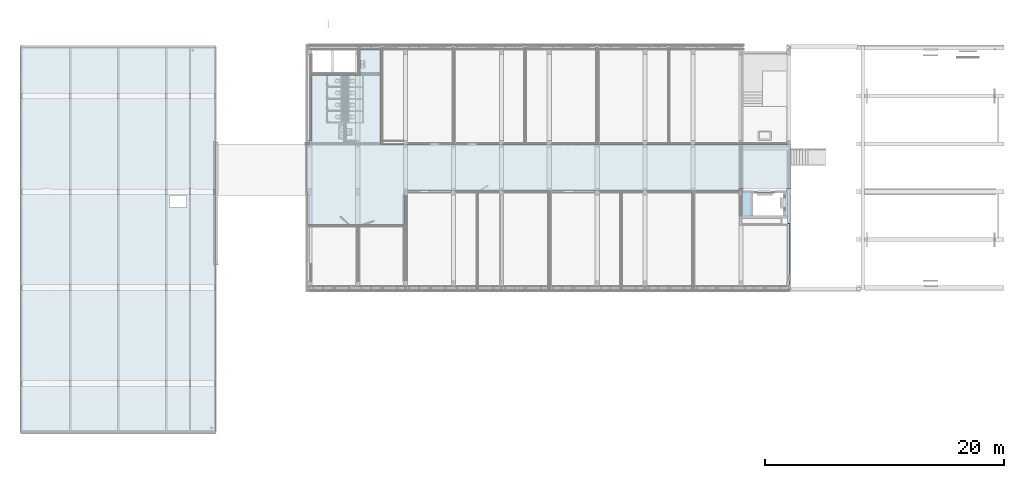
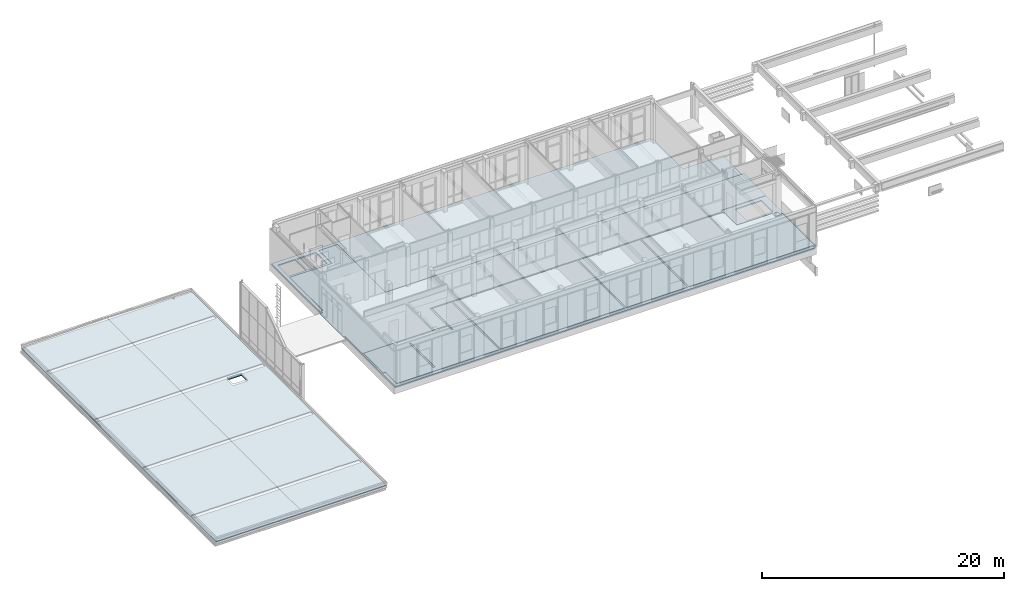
# One storey, part 13 of 54: 4 slabs, 7 openings.
"""IFC2X3 building model written with IfcOpenShell, lengths in millimetres."""

from ifc_helpers import new_model, entity, si_unit, converted_unit, derived_unit, money_unit, direction, frame, origin_with_axes, place, context, subcontext, project, spatial, faceted_brep, material, type_object, element, save


model = new_model("IFC2X3")

# Units and contexts
model_context = context("Model", 3, precision=0.01, world=origin_with_axes(), true_north=direction((0.0, 1.0)))
body_context = subcontext(model_context, "Body", "Model", "MODEL_VIEW")
ifc_project = project(units=[si_unit("LENGTHUNIT", "METRE", prefix="MILLI"), si_unit("AREAUNIT", "SQUARE_METRE"), si_unit("VOLUMEUNIT", "CUBIC_METRE"), converted_unit("PLANEANGLEUNIT", "DEGREE", entity("IfcPlaneAngleMeasure", 0.0174532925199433), si_unit("PLANEANGLEUNIT", "RADIAN"), dimensions=[0, 0, 0, 0, 0, 0, 0]), money_unit("EUR"), converted_unit("TIMEUNIT", "Year", entity("IfcTimeMeasure", 31557600.0), si_unit("TIMEUNIT", "SECOND"), dimensions=[0, 0, 1, 0, 0, 0, 0]), si_unit("MASSUNIT", "GRAM", prefix="KILO"), si_unit("THERMODYNAMICTEMPERATUREUNIT", "DEGREE_CELSIUS"), si_unit("LUMINOUSINTENSITYUNIT", "LUMEN"), si_unit("ENERGYUNIT", "JOULE", prefix="MEGA"), derived_unit("THERMALCONDUCTANCEUNIT", [(si_unit("POWERUNIT", "WATT"), 1), (si_unit("LENGTHUNIT", "METRE"), -1), (si_unit("THERMODYNAMICTEMPERATUREUNIT", "KELVIN"), -1)]), derived_unit("SPECIFICHEATCAPACITYUNIT", [(si_unit("ENERGYUNIT", "JOULE"), 1), (si_unit("MASSUNIT", "GRAM", prefix="KILO"), -1), (si_unit("THERMODYNAMICTEMPERATUREUNIT", "KELVIN"), -1)]), derived_unit("MASSDENSITYUNIT", [(si_unit("MASSUNIT", "GRAM", prefix="KILO"), 1), (si_unit("VOLUMEUNIT", "CUBIC_METRE"), -1)])], contexts=[model_context])

# Site, building, storey
site_placement = place(None, origin_with_axes())
site = spatial("IfcSite", under=ifc_project, at=site_placement, Name="<site naam>", CompositionType="ELEMENT")
building_placement = place(site_placement, origin_with_axes())
building = spatial("IfcBuilding", under=site, at=building_placement, Name="<Naam gebouw>", CompositionType="ELEMENT")
storey_placement = place(building_placement, frame((0.0, 0.0, 8500.0), z_axis=(0.0, 0.0, 1.0), x_axis=(1.0, 0.0, 0.0)))
storey = spatial("IfcBuildingStorey", under=building, at=storey_placement, Name="02 2e verdieping", CompositionType="ELEMENT", Elevation=8500.0)

# Slab, openings
ifc_material_1 = material(Name="beton_gewapend_vloer C")
slab_type_1 = type_object("IfcSlabType", Name="beton_gewapend_vloer C  120", PredefinedType="NOTDEFINED")
slab_1_placement = place(storey_placement, frame((11824.99999999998, -264.9999999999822, -30.00000000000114), z_axis=(0.0, 0.0, 1.0), x_axis=(1.0, 0.0, 0.0)))
slab_1 = element("IfcSlab", 1, at=slab_1_placement, inside=storey, type_object=slab_type_1, material=ifc_material_1, Name="23_Vloer_beton_gewapend_vloer", PredefinedType="NOTDEFINED", context=body_context, shape_type="Brep", body=[
    faceted_brep([(0.0, 0.0, 0.0), (0.0, 0.0, -119.9999999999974), (40080.00000000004, 0.0, -119.9999999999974), (40080.00000000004, 0.0, 0.0), (0.0, 20530.0, 0.0), (0.0, 20530.0, -119.9999999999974), (36175.00000000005, 20529.99999999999, -119.9999999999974), (36175.00000000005, 20330.0, -119.9999999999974), (36350.07785426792, 20330.0, -119.9999999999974), (36350.07785426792, 15356.57273018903, -119.9999999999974), (40160.00000000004, 15356.57273018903, -119.9999999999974), (40160.00000000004, 11990.0, -119.9999999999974), (40350.00000000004, 11990.0, -119.9999999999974), (40350.0, 291.8380129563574, -119.9999999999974), (40080.00000000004, 291.8380129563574, -119.9999999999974), (40080.00000000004, 291.8380129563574, 0.0), (40350.0, 291.8380129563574, 0.0), (40350.00000000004, 11990.0, 0.0), (40160.00000000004, 11990.0, 0.0), (40160.00000000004, 15356.57273018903, 0.0), (36350.07785426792, 15356.57273018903, 0.0), (36350.07785426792, 20330.0, 0.0), (36175.00000000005, 20330.0, 0.0), (36175.00000000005, 20529.99999999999, 0.0)], [[[0, 1, 2, 3]], [[4, 5, 1, 0]], [[2, 1, 5, 6, 7, 8, 9, 10, 11, 12, 13, 14]], [[3, 2, 14, 15]], [[4, 0, 3, 15, 16, 17, 18, 19, 20, 21, 22, 23]], [[23, 6, 5, 4]], [[22, 7, 6, 23]], [[21, 8, 7, 22]], [[20, 9, 8, 21]], [[19, 10, 9, 20]], [[18, 11, 10, 19]], [[17, 12, 11, 18]], [[16, 13, 12, 17]], [[15, 14, 13, 16]]]),
])
opening_1_placement = place(slab_1_placement, frame((-11824.99999999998, 264.9999999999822, -8469.999999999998), z_axis=(0.0, 0.0, 1.0), x_axis=(1.0, 0.0, 0.0)))
element("IfcOpeningElement", 2, at=opening_1_placement, cuts=slab_1, Name="23_Opening_", context=body_context, shape_type="Brep", body=[
    faceted_brep([(49000.00000000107, 6004.99999853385, 8590.0), (49000.00000000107, 7904.99999853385, 8590.0), (49000.00000000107, 7904.99999853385, 8230.0), (49000.00000000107, 6004.99999853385, 8230.0), (51500.00000000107, 6004.99999853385, 8590.0), (51500.00000000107, 7904.99999853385, 8590.0), (51500.00000000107, 7904.99999853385, 8230.0), (51500.00000000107, 6004.99999853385, 8230.0)], [[[0, 1, 2, 3]], [[0, 4, 5, 1]], [[1, 5, 6, 2]], [[3, 2, 6, 7]], [[4, 0, 3, 7]], [[5, 4, 7, 6]]]),
])
opening_2_placement = place(slab_1_placement, frame((-11824.99999999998, 264.9999999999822, -8469.999999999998), z_axis=(0.0, 0.0, 1.0), x_axis=(1.0, 0.0, 0.0)))
element("IfcOpeningElement", 3, at=opening_2_placement, cuts=slab_1, Name="23_Opening_", context=body_context, shape_type="Brep", body=[
    faceted_brep([(13965.00000000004, 18009.99999999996, 8590.0), (13965.00000000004, 19810.0000080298, 8590.0), (13965.00000000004, 19810.0000080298, 8230.0), (13965.00000000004, 18009.99999999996, 8230.0), (15825.00000000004, 18009.99999999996, 8590.0), (15825.00000000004, 19810.0000080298, 8590.0), (15825.00000000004, 19810.0000080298, 8230.0), (15825.00000000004, 18009.99999999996, 8230.0)], [[[0, 1, 2, 3]], [[0, 4, 5, 1]], [[1, 5, 6, 2]], [[3, 2, 6, 7]], [[4, 0, 3, 7]], [[5, 4, 7, 6]]]),
])
opening_3_placement = place(slab_1_placement, frame((-11824.99999999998, 264.9999999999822, -8469.999999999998), z_axis=(0.0, 0.0, 1.0), x_axis=(1.0, 0.0, 0.0)))
element("IfcOpeningElement", 4, at=opening_3_placement, cuts=slab_1, Name="23_Opening_", context=body_context, shape_type="Brep", body=[
    faceted_brep([(12175.00000000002, 18009.99999999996, 8590.0), (12175.00000000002, 19809.99999999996, 8590.0), (12175.00000000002, 19809.99999999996, 8230.0), (12175.00000000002, 18009.99999999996, 8230.0), (13824.99999999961, 18009.99999999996, 8590.0), (13824.99999999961, 19809.99999999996, 8590.0), (13824.99999999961, 19809.99999999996, 8230.0), (13824.99999999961, 18009.99999999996, 8230.0)], [[[0, 1, 2, 3]], [[0, 4, 5, 1]], [[1, 5, 6, 2]], [[3, 2, 6, 7]], [[4, 0, 3, 7]], [[5, 4, 7, 6]]]),
])
opening_4_placement = place(slab_1_placement, frame((-11824.99999999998, 264.9999999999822, -8469.999999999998), z_axis=(0.0, 0.0, 1.0), x_axis=(1.0, 0.0, 0.0)))
element("IfcOpeningElement", 5, at=opening_4_placement, cuts=slab_1, Name="23_Opening_", context=body_context, shape_type="Brep", body=[
    faceted_brep([(51465.00000000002, 5340.999998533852, 8590.0), (51465.00000000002, 5790.99999853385, 8590.0), (51465.00000000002, 5790.99999853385, 8230.0), (51465.00000000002, 5340.999998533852, 8230.0), (51865.00000000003, 5340.999998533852, 8590.0), (51865.00000000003, 5790.99999853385, 8590.0), (51865.00000000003, 5790.99999853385, 8230.0), (51865.00000000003, 5340.999998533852, 8230.0)], [[[0, 1, 2, 3]], [[0, 4, 5, 1]], [[1, 5, 6, 2]], [[3, 2, 6, 7]], [[4, 0, 3, 7]], [[5, 4, 7, 6]]]),
])

ifc_material_2 = material(Name="isolatie_xps_zwevende_dekvloer")
slab_type_2 = type_object("IfcSlabType", Name="isolatie_xps_zwevende_dekvloer 30", PredefinedType="NOTDEFINED")
slab_2_placement = place(storey_placement, frame((11935.00003775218, 1954.999977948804, 0.0), z_axis=(0.0, 0.0, 1.0), x_axis=(1.0, 0.0, 0.0)))
slab_2 = element("IfcSlab", 6, at=slab_2_placement, inside=storey, type_object=slab_type_2, material=ifc_material_2, Name="23_Vloer_isolatie_xps_zwevende_dekvloer", PredefinedType="NOTDEFINED", context=body_context, shape_type="Brep", body=[
    faceted_brep([(8139.999962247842, 2564.601260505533, 0.0), (8139.999962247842, 2564.601260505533, -29.99999999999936), (7989.999962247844, 2564.601260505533, -29.99999999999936), (7989.999962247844, 2564.601260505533, 0.0), (8139.999962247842, 3270.000022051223, 0.0), (8139.999962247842, 3270.000022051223, -29.99999999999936), (7989.999962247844, 3270.000022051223, -29.99999999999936), (8139.999962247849, 6016.00002205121, -29.99999999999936), (9990.011503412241, 6016.00002205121, -29.99999999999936), (9990.00019722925, -1879.999977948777, -29.99999999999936), (215.0000000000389, -1879.999977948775, -29.99999999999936), (215.0000000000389, 0.0, -29.99999999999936), (0.0, 0.0, -29.99999999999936), (0.0, 3270.000022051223, -29.99999999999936), (3989.999962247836, 2569.999989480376, -29.99999999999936), (3989.999962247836, -1404.9999779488, -29.99999999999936), (4139.999962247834, -1404.9999779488, -29.99999999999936), (4139.999962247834, 2569.999989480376, -29.99999999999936), (7989.999962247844, 3270.000022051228, 0.0), (0.0, 3270.000022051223, 0.0), (0.0, 0.0, 0.0), (215.0000000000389, 0.0, 0.0), (215.0000000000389, -1879.999977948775, 0.0), (9990.000197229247, -1879.99997794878, 0.0), (9990.011503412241, 6016.000022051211, 0.0), (8139.999962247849, 6016.00002205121, 0.0), (4139.999962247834, -1404.9999779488, 0.0), (3989.999962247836, -1404.9999779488, 0.0), (3989.999962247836, 2569.999989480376, 0.0), (4139.999962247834, 2569.999989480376, 0.0)], [[[0, 1, 2, 3]], [[1, 0, 4, 5]], [[6, 2, 1, 5, 7, 8, 9, 10, 11, 12, 13], [14, 15, 16, 17]], [[2, 6, 18, 3]], [[0, 3, 18, 19, 20, 21, 22, 23, 24, 25, 4], [26, 27, 28, 29]], [[7, 5, 4, 25]], [[25, 24, 8, 7]], [[9, 8, 24, 23]], [[10, 9, 23, 22]], [[22, 21, 11, 10]], [[21, 20, 12, 11]], [[20, 19, 13, 12]], [[19, 18, 6, 13]], [[14, 28, 27, 15]], [[16, 15, 27, 26]], [[16, 26, 29, 17]], [[17, 29, 28, 14]]]),
    faceted_brep([(39347.49996224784, 3836.000020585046, 0.0), (39347.49996224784, 3836.000020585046, -29.99999999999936), (35989.99996224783, 3836.000020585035, -29.99999999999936), (35989.99996224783, 3836.000020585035, 0.0), (39347.49996224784, 3273.500020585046, 0.0), (39347.49996224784, 3273.500020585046, -29.99999999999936), (35989.99996224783, 4050.000020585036, -29.99999999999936), (39359.99996224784, 3273.500020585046, -29.99999999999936), (39929.99996224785, 3273.500020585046, -29.99999999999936), (39929.99996224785, 3386.000020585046, -29.99999999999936), (39459.99996224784, 3386.000020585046, -29.99999999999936), (39459.99996224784, 3404.000022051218, -29.99999999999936), (40129.99996224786, 3404.000022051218, -29.99999999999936), (40129.99996224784, -1928.161964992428, -29.99999999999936), (39969.99996224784, -1928.161964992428, -29.99999999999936), (39969.99996224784, -1879.999977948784, -29.99999999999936), (28139.99996224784, -1879.999977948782, -29.99999999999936), (28139.99996224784, 6016.00002205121, -29.99999999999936), (35989.99996224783, 6016.00002205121, -29.99999999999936), (35989.99996224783, 4050.000020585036, 0.0), (35989.99996224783, 6016.00002205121, 0.0), (28139.99996224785, 6016.000022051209, 0.0), (28139.99996224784, -1879.999977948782, 0.0), (39969.99996224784, -1879.999977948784, 0.0), (39969.99996224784, -1928.161964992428, 0.0), (40129.99996224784, -1928.161964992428, 0.0), (40129.99996224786, 3404.000022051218, 0.0), (39459.99996224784, 3404.000022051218, 0.0), (39459.99996224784, 3386.000020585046, 0.0), (39929.99996224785, 3386.000020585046, 0.0), (39929.99996224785, 3273.500020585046, 0.0), (39359.99996224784, 3273.500020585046, 0.0)], [[[0, 1, 2, 3]], [[0, 4, 5, 1]], [[6, 2, 1, 5, 7, 8, 9, 10, 11, 12, 13, 14, 15, 16, 17, 18]], [[2, 6, 19, 3]], [[0, 3, 19, 20, 21, 22, 23, 24, 25, 26, 27, 28, 29, 30, 31, 4]], [[4, 31, 7, 5]], [[7, 31, 30, 8]], [[30, 29, 9, 8]], [[9, 29, 28, 10]], [[11, 10, 28, 27]], [[12, 11, 27, 26]], [[26, 25, 13, 12]], [[25, 24, 14, 13]], [[24, 23, 15, 14]], [[23, 22, 16, 15]], [[16, 22, 21, 17]], [[21, 20, 18, 17]], [[20, 19, 6, 18]]]),
    faceted_brep([(10140.0001972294, -1879.999977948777, 0.0), (21990.00010395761, -1879.999977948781, 0.0), (21990.00010395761, 6016.000022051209, 0.0), (10140.0115034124, 6016.000022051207, 0.0), (10140.0001972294, -1879.999977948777, -29.99999999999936), (21990.00010395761, -1879.99997794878, -29.99999999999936), (21990.00010395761, 6016.00002205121, -29.99999999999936), (10140.0115034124, 6016.00002205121, -29.99999999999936)], [[[0, 1, 2, 3]], [[4, 5, 1, 0]], [[5, 6, 2, 1]], [[3, 2, 6, 7]], [[4, 0, 3, 7]], [[7, 6, 5, 4]]]),
    faceted_brep([(27989.99996224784, 6016.00002205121, -29.99999999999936), (22140.00010395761, 6016.00002205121, -29.99999999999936), (22140.00010395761, 6016.000022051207, 0.0), (27989.99996224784, 6016.00002205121, 0.0), (27989.99996224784, -1879.999977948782, -29.99999999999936), (22140.00010395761, -1879.99997794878, -29.99999999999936), (22140.00010395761, -1879.99997794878, 0.0), (27989.99996224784, -1879.999977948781, 0.0)], [[[0, 1, 2, 3]], [[4, 5, 1, 0]], [[5, 6, 2, 1]], [[3, 2, 6, 7]], [[4, 0, 3, 7]], [[7, 6, 5, 4]]]),
])
opening_5_placement = place(slab_2_placement, frame((-11935.00003775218, -1954.999977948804, -8500.0), z_axis=(0.0, 0.0, 1.0), x_axis=(1.0, 0.0, 0.0)))
element("IfcOpeningElement", 7, at=opening_5_placement, cuts=slab_2, Name="23_Opening_", context=body_context, shape_type="Brep", body=[
    faceted_brep([(12175.00000000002, 17899.99999999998, 8529.999999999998), (12175.00000000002, 19399.99999999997, 8529.999999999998), (12175.00000000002, 19399.99999999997, 8440.000000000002), (12175.00000000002, 17899.99999999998, 8440.000000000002), (13075.00000000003, 17899.99999999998, 8529.999999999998), (13075.00000000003, 19399.99999999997, 8529.999999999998), (13075.00000000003, 19399.99999999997, 8440.000000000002), (13075.00000000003, 17899.99999999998, 8440.000000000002)], [[[0, 1, 2, 3]], [[0, 4, 5, 1]], [[1, 5, 6, 2]], [[3, 2, 6, 7]], [[4, 0, 3, 7]], [[5, 4, 7, 6]]]),
])
opening_6_placement = place(slab_2_placement, frame((-11935.00003775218, -1954.999977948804, -8500.0), z_axis=(0.0, 0.0, 1.0), x_axis=(1.0, 0.0, 0.0)))
element("IfcOpeningElement", 8, at=opening_6_placement, cuts=slab_2, Name="23_Opening_", context=body_context, shape_type="Brep", body=[
    faceted_brep([(13675.0035593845, 17899.99999999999, 8529.999999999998), (13675.0035593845, 19399.99999999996, 8529.999999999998), (13675.0035593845, 19399.99999999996, 8440.000000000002), (13675.0035593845, 17899.99999999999, 8440.000000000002), (14575.0035593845, 17899.99999999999, 8529.999999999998), (14575.0035593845, 19399.99999999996, 8529.999999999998), (14575.0035593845, 19399.99999999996, 8440.000000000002), (14575.0035593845, 17899.99999999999, 8440.000000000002)], [[[0, 1, 2, 3]], [[0, 4, 5, 1]], [[1, 5, 6, 2]], [[3, 2, 6, 7]], [[4, 0, 3, 7]], [[5, 4, 7, 6]]]),
])

# Slab
ifc_material_3 = material(Name="zandcementdeklvoer")
slab_type_3 = type_object("IfcSlabType", Name="zandcementdeklvoer 30", PredefinedType="NOTDEFINED")
slab_3_placement = place(storey_placement, frame((11935.00000000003, 11936.37754083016, 0.0), z_axis=(0.0, 0.0, 1.0), x_axis=(1.0, 0.0, 0.0)))
element("IfcSlab", 9, at=slab_3_placement, inside=storey, type_object=slab_type_3, material=ifc_material_3, Name="23_Vloer_zandcementdeklvoer", PredefinedType="NOTDEFINED", context=body_context, shape_type="Brep", body=[
    faceted_brep([(0.0, 0.0, -29.99999999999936), (-165.0000000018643, 0.0, -29.99999999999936), (-165.0000000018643, 0.0, 0.0), (0.0, 0.0, 0.0), (-265.0000000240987, -5.377960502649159, -29.99999999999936), (-165.0000000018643, -5.377960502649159, -29.99999999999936), (5.591118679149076e-07, 338.6225277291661, -29.99999999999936), (190.0000005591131, 338.6225277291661, -29.99999999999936), (190.0000005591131, 5813.622459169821, -29.99999999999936), (4240.000000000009, 5813.622459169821, -29.99999999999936), (4240.000000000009, 7954.122459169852, -29.99999999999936), (5990.100692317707, 7954.122459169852, -29.99999999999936), (5990.100692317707, 0.0, -29.99999999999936), (40239.4000413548, 0.0, -29.99999999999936), (40239.39999959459, -3661.377540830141, -29.99999999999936), (35889.94591383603, -3661.377540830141, -29.99999999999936), (35889.94591383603, -3861.377548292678, -29.99999999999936), (7989.999999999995, -3861.377548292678, -29.99999999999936), (7989.999999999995, -6711.377540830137, -29.99999999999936), (-109.9999999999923, -6711.377540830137, -29.99999999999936), (-109.9999999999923, -3863.578673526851, -29.99999999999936), (-269.9999999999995, -3863.578673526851, -29.99999999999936), (-269.9999999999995, 0.0, -29.99999999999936), (-265.0000000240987, 0.0, -29.99999999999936), (-165.0000000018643, -5.377960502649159, 0.0), (-265.0000000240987, -5.377960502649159, 0.0), (-265.0000000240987, 0.0, 0.0), (-269.9999999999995, 0.0, 0.0), (-269.9999999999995, -3863.578673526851, 0.0), (-109.9999999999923, -3863.578673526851, 0.0), (-109.9999999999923, -6711.377540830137, 0.0), (7989.999999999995, -6711.377540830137, 0.0), (7989.999999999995, -3861.377548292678, 0.0), (16239.99999999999, -3861.377540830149, 0.0), (16239.99999999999, -3851.37754083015, 0.0), (16306.99999999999, -3851.37754083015, 0.0), (16306.99999999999, -3861.377540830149, 0.0), (35889.94591383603, -3861.377548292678, 0.0), (35889.94591383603, -3661.377540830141, 0.0), (40239.39999959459, -3661.377540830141, 0.0), (40239.4000413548, 0.0, 0.0), (5990.100692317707, 0.0, 0.0), (5990.100692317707, 7954.122459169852, 0.0), (4240.000000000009, 7954.122459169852, 0.0), (4240.000000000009, 5813.622459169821, 0.0), (190.0000005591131, 5813.622459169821, 0.0), (190.0000005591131, 338.6225277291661, 0.0), (5.591118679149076e-07, 338.6225277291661, 0.0), (16306.99999999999, -3861.377540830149, -3.000000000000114), (16239.99999999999, -3861.377540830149, -3.000000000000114), (16239.99999999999, -3851.37754083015, -3.000000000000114), (16306.99999999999, -3851.37754083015, -3.000000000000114)], [[[0, 1, 2, 3]], [[4, 5, 1, 0, 6, 7, 8, 9, 10, 11, 12, 13, 14, 15, 16, 17, 18, 19, 20, 21, 22, 23]], [[5, 24, 2, 1]], [[24, 25, 26, 27, 28, 29, 30, 31, 32, 33, 34, 35, 36, 37, 38, 39, 40, 41, 42, 43, 44, 45, 46, 47, 3, 2]], [[0, 3, 47, 6]], [[4, 25, 24, 5]], [[6, 47, 46, 7]], [[8, 7, 46, 45]], [[44, 9, 8, 45]], [[9, 44, 43, 10]], [[11, 10, 43, 42]], [[41, 12, 11, 42]], [[12, 41, 40, 13]], [[13, 40, 39, 14]], [[14, 39, 38, 15]], [[15, 38, 37, 16]], [[36, 48, 49, 33, 32, 17, 16, 37]], [[17, 32, 31, 18]], [[18, 31, 30, 19]], [[19, 30, 29, 20]], [[20, 29, 28, 21]], [[21, 28, 27, 22]], [[27, 26, 23, 22]], [[4, 23, 26, 25]], [[49, 50, 34, 33]], [[50, 51, 35, 34]], [[51, 48, 36, 35]], [[51, 50, 49, 48]]]),
])

# Slab, opening
ifc_material_4 = material(Name="cellenbeton")
slab_type_4 = type_object("IfcSlabType", Name="vloer gasbetonplaat 100 100", PredefinedType="NOTDEFINED")
slab_4_placement = place(storey_placement, frame((4145.000000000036, -12082.49008809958, -179.9999992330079), z_axis=(0.0, 0.0, 1.0), x_axis=(1.0, 0.0, 0.0)))
slab_4 = element("IfcSlab", 10, at=slab_4_placement, inside=storey, type_object=slab_type_4, material=ifc_material_4, Name="27_Vloer_vloer", PredefinedType="NOTDEFINED", context=body_context, shape_type="Brep", body=[
    faceted_brep([(-2494.999999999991, 11882.49008809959, 0.0), (-13794.99999999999, 11882.49008809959, 0.0), (-13794.99999999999, 11882.49008809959, 99.99999999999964), (-2494.999999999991, 11882.49008809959, 99.99999999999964), (-4.699915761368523, -1.230482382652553e-08, 0.0), (-16285.30097039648, 0.0, 0.0), (-16285.30097039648, 32164.99008809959, 0.0), (-16290.00097039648, 32164.99008809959, 0.0), (-16290.00097039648, 32184.3900880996, 0.0), (0.0, 32184.39008809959, 0.0), (0.0, 32164.99008885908, 0.0), (-4.700000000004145, 32164.99008884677, 0.0), (-13795.0, 4307.490088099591, 0.0), (-14495.0, 4307.490088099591, 0.0), (-14495.0, 4282.490088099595, 0.0), (-16180.00000000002, 4282.490088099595, 0.0), (-16180.00000000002, 3882.490088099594, 0.0), (-14495.0, 3882.490088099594, 0.0), (-14495.0, 3857.490088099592, 0.0), (-13795.0, 3857.490088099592, 0.0), (-13795.0, 3882.490088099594, 0.0), (-2495.000000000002, 3882.490088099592, 0.0), (-2495.000000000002, 3857.490088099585, 0.0), (-1795.000000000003, 3857.490088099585, 0.0), (-1795.000000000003, 3882.490088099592, 0.0), (-145.0000000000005, 3882.490088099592, 0.0), (-145.0000000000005, 4282.490088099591, 0.0), (-1795.000000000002, 4282.490088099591, 0.0), (-1795.000000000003, 4307.490088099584, 0.0), (-2495.000000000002, 4307.490088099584, 0.0), (-2495.000000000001, 4282.490088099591, 0.0), (-13795.0, 4282.490088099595, 0.0), (-13795.0, 28307.49008809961, 0.0), (-14495.0, 28307.49008809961, 0.0), (-14495.0, 28282.49008809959, 0.0), (-16180.00000000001, 28282.49008809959, 0.0), (-16180.00000000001, 27882.4900880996, 0.0), (-14495.0, 27882.4900880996, 0.0), (-14495.0, 27857.49008809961, 0.0), (-13795.0, 27857.49008809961, 0.0), (-13795.0, 27882.4900880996, 0.0), (-2494.999999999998, 27882.4900880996, 0.0), (-2494.999999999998, 27857.49008809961, 0.0), (-1794.999999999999, 27857.49008809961, 0.0), (-1794.999999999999, 27882.4900880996, 0.0), (-145.0000000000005, 27882.4900880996, 0.0), (-145.0000000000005, 28282.49008809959, 0.0), (-1795.0, 28282.49008809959, 0.0), (-1794.999999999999, 28307.49008809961, 0.0), (-2494.999999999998, 28307.49008809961, 0.0), (-2494.999999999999, 28282.49008809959, 0.0), (-13795.0, 28282.49008809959, 0.0), (-13795.0, 20307.49008809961, 0.0), (-14495.0, 20307.49008809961, 0.0), (-14495.0, 20282.49008809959, 0.0), (-16180.00000000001, 20282.49008809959, 0.0), (-16180.00000000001, 19882.4900880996, 0.0), (-14495.0, 19882.4900880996, 0.0), (-14495.0, 19857.49008809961, 0.0), (-13795.0, 19857.49008809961, 0.0), (-13795.0, 19882.4900880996, 0.0), (-2494.999999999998, 19882.4900880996, 0.0), (-2494.999999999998, 19857.49008809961, 0.0), (-1794.999999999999, 19857.49008809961, 0.0), (-1794.999999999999, 19882.4900880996, 0.0), (-145.0000000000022, 19882.4900880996, 0.0), (-145.0000000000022, 20282.4900880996, 0.0), (-1794.999999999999, 20282.4900880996, 0.0), (-1794.999999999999, 20307.49008809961, 0.0), (-2494.999999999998, 20307.49008809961, 0.0), (-2494.999999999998, 20282.4900880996, 0.0), (-13795.0, 20282.49008809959, 0.0), (-13794.99999999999, 12307.4900880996, 0.0), (-14494.99999999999, 12307.4900880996, 0.0), (-14494.99999999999, 12282.49008809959, 0.0), (-16180.00000000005, 12282.49008809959, 0.0), (-16180.00000000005, 11882.49008809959, 0.0), (-14494.99999999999, 11882.49008809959, 0.0), (-14494.99999999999, 11857.4900880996, 0.0), (-13794.99999999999, 11857.4900880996, 0.0), (-2494.999999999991, 11857.49008809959, 0.0), (-1794.999999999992, 11857.49008809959, 0.0), (-1794.999999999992, 11882.49008809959, 0.0), (-145.0000000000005, 11882.49008809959, 0.0), (-145.0000000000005, 12282.49008809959, 0.0), (-1794.999999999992, 12282.49008809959, 0.0), (-1794.999999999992, 12307.49008809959, 0.0), (-2494.999999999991, 12307.49008809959, 0.0), (-2494.999999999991, 12282.49008809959, 0.0), (-13794.99999999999, 12282.49008809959, 0.0), (-13794.99999999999, 11857.4900880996, 99.99999999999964), (-16290.00097039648, 32184.3900880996, 99.99999999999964), (-16290.00097039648, 32164.99008809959, 99.99999999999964), (-16233.50061258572, 32164.99008809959, 99.99999999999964), (-16233.50061258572, 0.0, 99.99999999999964), (-56.50015481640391, -1.479687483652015e-07, 99.99999999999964), (-56.50023905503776, 32164.99008871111, 99.99999999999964), (0.0, 32164.99008885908, 99.99999999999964), (0.0, 32184.39008809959, 99.99999999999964), (-16180.00000000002, 4282.490088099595, 99.99999999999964), (-14495.0, 4282.490088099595, 99.99999999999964), (-14495.0, 4307.490088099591, 99.99999999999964), (-13795.0, 4307.490088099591, 99.99999999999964), (-13795.0, 4282.490088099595, 99.99999999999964), (-2495.000000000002, 4282.490088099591, 99.99999999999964), (-2495.000000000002, 4307.490088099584, 99.99999999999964), (-1795.000000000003, 4307.490088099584, 99.99999999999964), (-1795.000000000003, 4282.490088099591, 99.99999999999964), (-145.0000000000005, 4282.490088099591, 99.99999999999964), (-145.0000000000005, 3882.490088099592, 99.99999999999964), (-1795.000000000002, 3882.490088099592, 99.99999999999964), (-1795.000000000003, 3857.490088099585, 99.99999999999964), (-2495.000000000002, 3857.490088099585, 99.99999999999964), (-2495.000000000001, 3882.490088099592, 99.99999999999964), (-13795.0, 3882.490088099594, 99.99999999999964), (-13795.0, 3857.490088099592, 99.99999999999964), (-14495.0, 3857.490088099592, 99.99999999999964), (-14495.0, 3882.490088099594, 99.99999999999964), (-16180.00000000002, 3882.490088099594, 99.99999999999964), (-16180.00000000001, 28282.49008809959, 99.99999999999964), (-14495.0, 28282.49008809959, 99.99999999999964), (-14495.0, 28307.49008809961, 99.99999999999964), (-13795.0, 28307.49008809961, 99.99999999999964), (-13795.0, 28282.49008809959, 99.99999999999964), (-2494.999999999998, 28282.49008809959, 99.99999999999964), (-2494.999999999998, 28307.49008809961, 99.99999999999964), (-1794.999999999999, 28307.49008809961, 99.99999999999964), (-1794.999999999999, 28282.49008809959, 99.99999999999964), (-145.0000000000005, 28282.49008809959, 99.99999999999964), (-145.0000000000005, 27882.4900880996, 99.99999999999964), (-1795.0, 27882.4900880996, 99.99999999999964), (-1794.999999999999, 27857.49008809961, 99.99999999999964), (-2494.999999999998, 27857.49008809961, 99.99999999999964), (-2494.999999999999, 27882.4900880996, 99.99999999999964), (-13795.0, 27882.4900880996, 99.99999999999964), (-13795.0, 27857.49008809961, 99.99999999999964), (-14495.0, 27857.49008809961, 99.99999999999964), (-14495.0, 27882.4900880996, 99.99999999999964), (-16180.00000000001, 27882.4900880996, 99.99999999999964), (-16180.00000000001, 20282.49008809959, 99.99999999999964), (-14495.0, 20282.49008809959, 99.99999999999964), (-14495.0, 20307.49008809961, 99.99999999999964), (-13795.0, 20307.49008809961, 99.99999999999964), (-13795.0, 20282.49008809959, 99.99999999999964), (-2494.999999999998, 20282.4900880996, 99.99999999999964), (-2494.999999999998, 20307.49008809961, 99.99999999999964), (-1794.999999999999, 20307.49008809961, 99.99999999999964), (-1794.999999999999, 20282.4900880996, 99.99999999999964), (-145.0000000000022, 20282.4900880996, 99.99999999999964), (-145.0000000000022, 19882.4900880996, 99.99999999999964), (-1794.999999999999, 19882.4900880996, 99.99999999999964), (-1794.999999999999, 19857.49008809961, 99.99999999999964), (-2494.999999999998, 19857.49008809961, 99.99999999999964), (-2494.999999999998, 19882.4900880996, 99.99999999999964), (-13795.0, 19882.4900880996, 99.99999999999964), (-13795.0, 19857.49008809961, 99.99999999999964), (-14495.0, 19857.49008809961, 99.99999999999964), (-14495.0, 19882.4900880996, 99.99999999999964), (-16180.00000000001, 19882.4900880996, 99.99999999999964), (-16180.00000000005, 12282.49008809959, 99.99999999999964), (-14494.99999999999, 12282.49008809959, 99.99999999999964), (-14494.99999999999, 12307.4900880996, 99.99999999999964), (-13794.99999999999, 12307.4900880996, 99.99999999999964), (-13794.99999999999, 12282.49008809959, 99.99999999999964), (-2494.999999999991, 12282.49008809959, 99.99999999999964), (-2494.999999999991, 12307.49008809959, 99.99999999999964), (-1794.999999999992, 12307.49008809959, 99.99999999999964), (-1794.999999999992, 12282.49008809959, 99.99999999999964), (-145.0000000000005, 12282.49008809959, 99.99999999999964), (-145.0000000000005, 11882.49008809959, 99.99999999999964), (-1794.999999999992, 11882.49008809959, 99.99999999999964), (-1794.999999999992, 11857.49008809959, 99.99999999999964), (-2494.999999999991, 11857.49008809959, 99.99999999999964), (-14494.99999999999, 11857.4900880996, 99.99999999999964), (-14494.99999999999, 11882.49008809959, 99.99999999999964), (-16180.00000000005, 11882.49008809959, 99.99999999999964), (-16233.50065217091, 0.0, 85.90000000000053), (-16285.30097039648, 0.0, 85.90000000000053), (-4.699915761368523, -1.230482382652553e-08, 85.90000000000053), (-56.50011523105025, -1.479687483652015e-07, 85.90000000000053), (-16285.30097039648, 32164.99008809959, 85.90000000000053), (-16233.50065217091, 32164.99008809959, 85.90000000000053), (-4.700000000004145, 32164.99008884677, 85.90000000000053), (-56.50019946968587, 32164.99008871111, 85.90000000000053)], [[[0, 1, 2, 3]], [[4, 5, 6, 7, 8, 9, 10, 11], [12, 13, 14, 15, 16, 17, 18, 19, 20, 21, 22, 23, 24, 25, 26, 27, 28, 29, 30, 31], [32, 33, 34, 35, 36, 37, 38, 39, 40, 41, 42, 43, 44, 45, 46, 47, 48, 49, 50, 51], [52, 53, 54, 55, 56, 57, 58, 59, 60, 61, 62, 63, 64, 65, 66, 67, 68, 69, 70, 71], [72, 73, 74, 75, 76, 77, 78, 79, 1, 0, 80, 81, 82, 83, 84, 85, 86, 87, 88, 89]], [[79, 90, 2, 1]], [[91, 92, 93, 94, 95, 96, 97, 98], [99, 100, 101, 102, 103, 104, 105, 106, 107, 108, 109, 110, 111, 112, 113, 114, 115, 116, 117, 118], [119, 120, 121, 122, 123, 124, 125, 126, 127, 128, 129, 130, 131, 132, 133, 134, 135, 136, 137, 138], [139, 140, 141, 142, 143, 144, 145, 146, 147, 148, 149, 150, 151, 152, 153, 154, 155, 156, 157, 158], [159, 160, 161, 162, 163, 164, 165, 166, 167, 168, 169, 170, 171, 172, 3, 2, 90, 173, 174, 175]], [[80, 0, 3, 172]], [[94, 176, 177, 5, 4, 178, 179, 95]], [[177, 180, 6, 5]], [[180, 181, 93, 92, 7, 6]], [[91, 8, 7, 92]], [[8, 91, 98, 9]], [[9, 98, 97, 10]], [[182, 11, 10, 97, 96, 183]], [[182, 178, 4, 11]], [[12, 102, 101, 13]], [[13, 101, 100, 14]], [[15, 14, 100, 99]], [[16, 15, 99, 118]], [[118, 117, 17, 16]], [[18, 17, 117, 116]], [[18, 116, 115, 19]], [[19, 115, 114, 20]], [[21, 20, 114, 113]], [[22, 21, 113, 112]], [[22, 112, 111, 23]], [[23, 111, 110, 24]], [[25, 24, 110, 109]], [[26, 25, 109, 108]], [[108, 107, 27, 26]], [[27, 107, 106, 28]], [[28, 106, 105, 29]], [[29, 105, 104, 30]], [[104, 103, 31, 30]], [[31, 103, 102, 12]], [[32, 122, 121, 33]], [[33, 121, 120, 34]], [[35, 34, 120, 119]], [[36, 35, 119, 138]], [[138, 137, 37, 36]], [[38, 37, 137, 136]], [[38, 136, 135, 39]], [[39, 135, 134, 40]], [[41, 40, 134, 133]], [[42, 41, 133, 132]], [[42, 132, 131, 43]], [[43, 131, 130, 44]], [[45, 44, 130, 129]], [[46, 45, 129, 128]], [[128, 127, 47, 46]], [[47, 127, 126, 48]], [[48, 126, 125, 49]], [[49, 125, 124, 50]], [[124, 123, 51, 50]], [[51, 123, 122, 32]], [[52, 142, 141, 53]], [[53, 141, 140, 54]], [[55, 54, 140, 139]], [[56, 55, 139, 158]], [[158, 157, 57, 56]], [[58, 57, 157, 156]], [[58, 156, 155, 59]], [[59, 155, 154, 60]], [[61, 60, 154, 153]], [[62, 61, 153, 152]], [[62, 152, 151, 63]], [[63, 151, 150, 64]], [[65, 64, 150, 149]], [[66, 65, 149, 148]], [[148, 147, 67, 66]], [[67, 147, 146, 68]], [[68, 146, 145, 69]], [[69, 145, 144, 70]], [[144, 143, 71, 70]], [[71, 143, 142, 52]], [[72, 162, 161, 73]], [[73, 161, 160, 74]], [[75, 74, 160, 159]], [[76, 75, 159, 175]], [[175, 174, 77, 76]], [[78, 77, 174, 173]], [[78, 173, 90, 79]], [[80, 172, 171, 81]], [[81, 171, 170, 82]], [[83, 82, 170, 169]], [[84, 83, 169, 168]], [[168, 167, 85, 84]], [[85, 167, 166, 86]], [[86, 166, 165, 87]], [[87, 165, 164, 88]], [[164, 163, 89, 88]], [[89, 163, 162, 72]], [[181, 176, 94, 93]], [[179, 183, 96, 95]], [[181, 180, 177, 176]], [[182, 183, 179, 178]]]),
])
opening_7_placement = place(slab_4_placement, frame((-4145.000000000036, 12082.49008809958, -8320.000000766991), z_axis=(0.0, 0.0, 1.0), x_axis=(1.0, 0.0, 0.0)))
element("IfcOpeningElement", 11, at=opening_7_placement, cuts=slab_4, Name="27_Opening_", context=body_context, shape_type="Brep", body=[
    faceted_brep([(300.0000000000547, 6675.000000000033, 8520.000000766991), (300.0000000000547, 7675.000000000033, 8520.000000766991), (300.0000000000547, 7675.000000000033, 8220.000000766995), (300.0000000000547, 6675.000000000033, 8220.000000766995), (1700.000000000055, 6675.000000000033, 8520.000000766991), (1700.000000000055, 7675.000000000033, 8520.000000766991), (1700.000000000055, 7675.000000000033, 8220.000000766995), (1700.000000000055, 6675.000000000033, 8220.000000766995)], [[[0, 1, 2, 3]], [[0, 4, 5, 1]], [[1, 5, 6, 2]], [[3, 2, 6, 7]], [[4, 0, 3, 7]], [[5, 4, 7, 6]]]),
])

save(model, "model.ifc")
